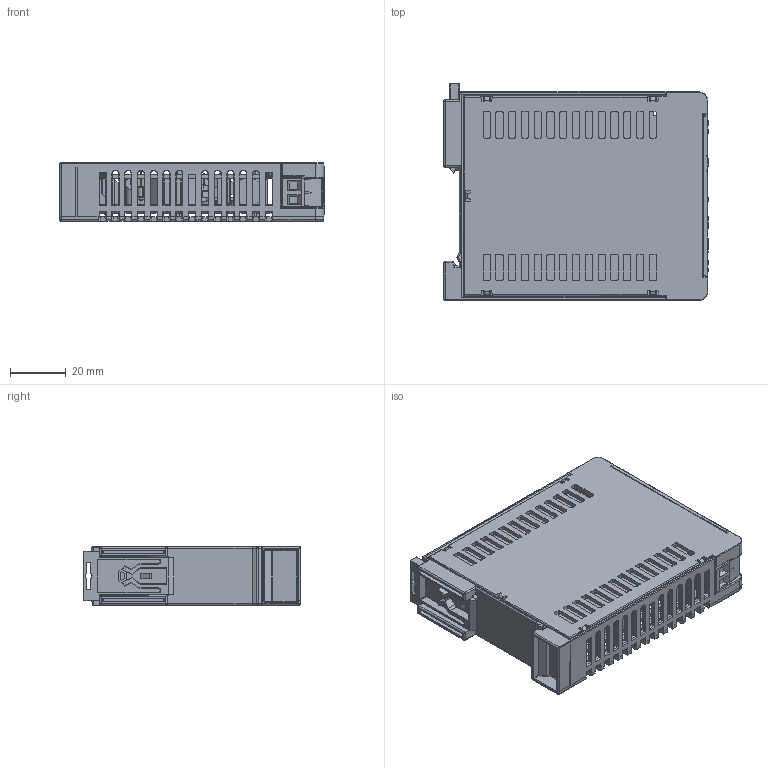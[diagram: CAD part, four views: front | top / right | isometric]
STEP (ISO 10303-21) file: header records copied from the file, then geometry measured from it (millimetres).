
FILE_DESCRIPTION((''),'2;1');
FILE_NAME('ASSEMBLY_ASM','2014-11-24T',('Leon.Yeh'),(''),'PRO/ENGINEER BY PARAMETRIC TECHNOLOGY CORPORATION, 2010280','PRO/ENGINEER BY PARAMETRIC TECHNOLOGY CORPORATION, 2010280','');
FILE_SCHEMA(('CONFIG_CONTROL_DESIGN'));
Products named in the file (18): CHASSIS_PRO_AF0; PWB_MIN; MB310-508M02Y; MB310-508M03Y; COVER_PRO; VR_GF063STB102K; LED_2300321531; 3421026502-1; PWB3__AF0; LABEL; CY_1; 3132067200_1; RM8-CORE_1; 3174686002_2; RM8-ASSY_ASM_1_ASM; FL2; F1; ASSEMBLY_ASM
Assembly tree (22 placements, depth 3):
  ASSEMBLY_ASM
    CHASSIS_PRO_AF0
    PWB_MIN
    MB310-508M02Y
    MB310-508M03Y
    COVER_PRO
    VR_GF063STB102K
    LED_2300321531
    3421026502-1
    PWB3__AF0
    LABEL
    CY_1  x5
    RM8-ASSY_ASM_1_ASM
      3132067200_1
      RM8-CORE_1  x2
      3174686002_2
    FL2
    F1
Bounding box: 95.1 x 78 x 21 mm (x, y, z)
Volume: 56451.4 mm3; surface area: 73778.6 mm2
Topology: 106 solids, 108 shells, 3998 faces, 10243 edges, 6375 vertices
Faces by surface type: plane 2092, cylinder 1057, torus 310, extrusion 246, bspline 113, sphere 112, cone 48, revolution 20
Entity records: 125913 total; most frequent: CARTESIAN_POINT 32412, ORIENTED_EDGE 20034, DIRECTION 17829, EDGE_CURVE 10017, VECTOR 6935, LINE 6689, VERTEX_POINT 6283, AXIS2_PLACEMENT_3D 5445
